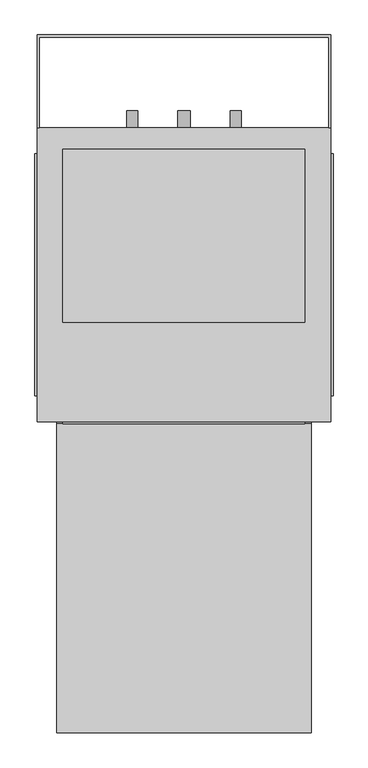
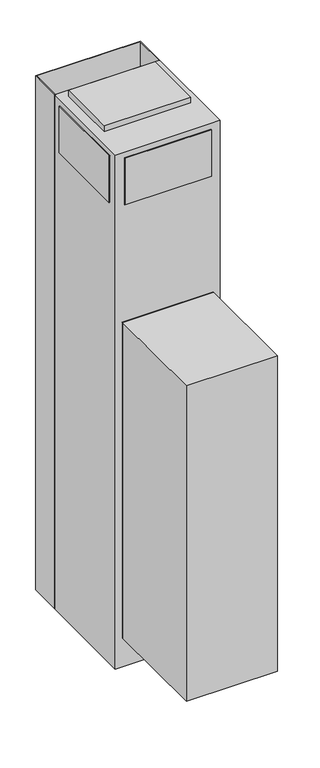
"""IFC4 building model written with IfcOpenShell, lengths in millimetres: proxy geometry, Exposed_Modular_Fan_Coil_Unit_-_42SHA_-_CARRIER_-_2-Pipe_Cool-EHeat_-_NoRisers_2022 : Size 03 - 277v/60Hz/1Ph - 4 Row 3.0kW."""

from ifc_helpers import new_model, si_unit, point, frame, frame_2d, origin, origin_with_axes, place, context, project, spatial, polyline, circle_curve, trimmed, segment, composite_curve, outline, extrude, source, transform, mapped, element, save


def mechanical_equipment_0a6d9aea(model_context):
    return source(origin(), model_context, "Body", "SweptSolid", [
        extrude(outline(polyline([(555.625, -190.5), (555.625, -644.525), (180.975, -644.525), (180.975, -190.5), (555.625, -190.5)])), frame((0.0, 0.0, 127.0), z_axis=(0.0, 0.0, 1.0), x_axis=(1.0, 0.0, 0.0)), (0.0, 0.0, 1.0), 1371.6),
        extrude(outline(polyline([(152.4, 381.0), (584.2, 381.0), (584.2, 244.475), (581.025, 244.475), (581.025, 377.825), (155.575, 377.825), (155.575, 244.475), (152.4, 244.475), (152.4, 381.0)])), origin_with_axes(), (0.0, 0.0, 1.0), 2235.2),
        extrude(outline(composite_curve([segment(trimmed(circle_curve(frame_2d((990.6, 444.5)), 7.9375), [point((990.6, 452.4375))], [point((990.6, 436.5625))], False, "CARTESIAN"), True, "CONTINUOUS"), segment(trimmed(circle_curve(frame_2d((990.6, 444.5)), 7.9375), [point((990.6, 436.5625))], [point((990.6, 452.4375))], False, "CARTESIAN"), True, "CONTINUOUS")], self_intersect=False)), frame((0.0, 244.475, 0.0), z_axis=(0.0, 1.0, 0.0), x_axis=(0.0, 0.0, 1.0)), (0.0, 0.0, 1.0), 25.4),
        extrude(outline(composite_curve([segment(trimmed(circle_curve(frame_2d((990.6, 292.1)), 7.9375), [point((990.6, 300.0375))], [point((990.6, 284.1625))], False, "CARTESIAN"), True, "CONTINUOUS"), segment(trimmed(circle_curve(frame_2d((990.6, 292.1)), 7.9375), [point((990.6, 284.1625))], [point((990.6, 300.0375))], False, "CARTESIAN"), True, "CONTINUOUS")], self_intersect=False)), frame((0.0, 244.475, 0.0), z_axis=(0.0, 1.0, 0.0), x_axis=(0.0, 0.0, 1.0)), (0.0, 0.0, 1.0), 25.4),
        extrude(outline(composite_curve([segment(trimmed(circle_curve(frame_2d((127.0, 368.3)), 9.525), [point((127.0, 377.825))], [point((127.0, 358.775))], False, "CARTESIAN"), True, "CONTINUOUS"), segment(trimmed(circle_curve(frame_2d((127.0, 368.3)), 9.525), [point((127.0, 358.775))], [point((127.0, 377.825))], False, "CARTESIAN"), True, "CONTINUOUS")], self_intersect=False)), frame((0.0, 244.475, 0.0), z_axis=(0.0, 1.0, 0.0), x_axis=(0.0, 0.0, 1.0)), (0.0, 0.0, 1.0), 25.4),
        extrude(outline(polyline([(555.625, -190.5), (180.975, -190.5), (180.975, -187.325), (555.625, -187.325), (555.625, -190.5)])), frame((0.0, 0.0, 127.0), z_axis=(0.0, 0.0, 1.0), x_axis=(1.0, 0.0, 0.0)), (0.0, 0.0, 1.0), 1371.6),
        extrude(outline(polyline([(587.375, 206.375), (587.375, -149.225), (584.2, -149.225), (584.2, 206.375), (587.375, 206.375)])), frame((0.0, 0.0, 2006.6), z_axis=(0.0, 0.0, 1.0), x_axis=(1.0, 0.0, 0.0)), (0.0, 0.0, 1.0), 203.2),
        extrude(outline(polyline([(149.225, -149.225), (149.225, 206.375), (152.4, 206.375), (152.4, -149.225), (149.225, -149.225)])), frame((0.0, 0.0, 2006.6), z_axis=(0.0, 0.0, 1.0), x_axis=(1.0, 0.0, 0.0)), (0.0, 0.0, 1.0), 203.2),
        extrude(outline(polyline([(546.1, -190.5), (190.5, -190.5), (190.5, -187.325), (546.1, -187.325), (546.1, -190.5)])), frame((0.0, 0.0, 2006.6), z_axis=(0.0, 0.0, 1.0), x_axis=(1.0, 0.0, 0.0)), (0.0, 0.0, 1.0), 203.2),
        extrude(outline(polyline([(546.1, 212.725), (546.1, -41.275), (190.5, -41.275), (190.5, 212.725), (546.1, 212.725)])), frame((0.0, 0.0, 2235.2), z_axis=(0.0, 0.0, 1.0), x_axis=(1.0, 0.0, 0.0)), (0.0, 0.0, 1.0), 25.4),
        extrude(outline(polyline([(584.2, 244.475), (584.2, -187.325), (152.4, -187.325), (152.4, 244.475), (584.2, 244.475)])), origin_with_axes(), (0.0, 0.0, 1.0), 2235.2),
    ])


if __name__ == "__main__":
    model = new_model("IFC4")
    model_context = context("Model", 3, world=origin())
    ifc_project = project(units=[si_unit("LENGTHUNIT", "METRE", prefix="MILLI")], contexts=[model_context])
    site = spatial("IfcSite", under=ifc_project)
    building = spatial("IfcBuilding", under=site)
    placement = place(None, origin())
    mechanical_equipment_shape = mechanical_equipment_0a6d9aea(model_context)
    element("IfcBuildingElementProxy", 1, Name="Exposed_Modular_Fan_Coil_Unit_-_42SHA_-_CARRIER_-_2-Pipe_Cool-EHeat_-_NoRisers_2022 : Size 03 - 277v/60Hz/1Ph - 4 Row 3.0kW", ObjectType="Exposed_Modular_Fan_Coil_Unit_-_42SHA_-_CARRIER_-_2-Pipe_Cool-EHeat_-_NoRisers_2022 : Size 03 - 277v/60Hz/1Ph - 4 Row 3.0kW", at=placement, inside=building, context=model_context, shape_type="MappedRepresentation", body=[
        mapped(mechanical_equipment_shape, transform((0.0, 0.0, 0.0), x_axis=(1.0, 0.0, 0.0), y_axis=(0.0, 1.0, 0.0), z_axis=(0.0, 0.0, 1.0))),
    ])
    save(model, "model.ifc")
